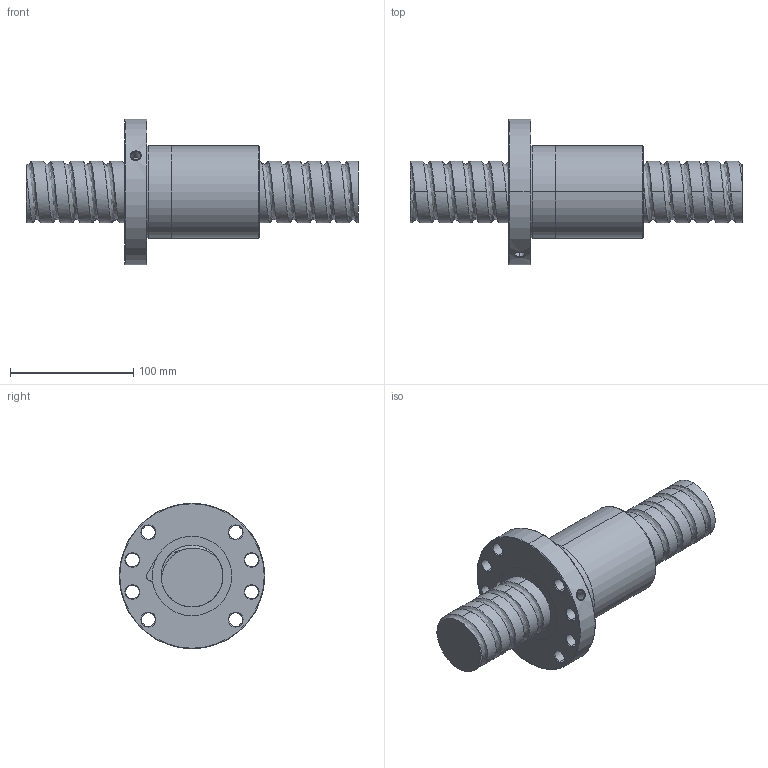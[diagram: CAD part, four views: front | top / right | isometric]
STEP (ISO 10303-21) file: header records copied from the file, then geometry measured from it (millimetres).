
FILE_DESCRIPTION (( 'STEP AP214' ), '1' );
FILE_NAME ('FSDC05016T5-F-A.STEP', '2010-06-25T12:16:23', ( 'XPAUTO' ), ( 'XPAUTO' ), 'SwSTEP 2.0', 'SolidWorks 2007', '' );
FILE_SCHEMA (( 'AUTOMOTIVE_DESIGN' ));
Length unit declared in the file: millimetre
Products named in the file (3): FSDC05016T5-F-A.sldasm-Part-1_預設; FSDC05016T5-F-A.sldasm-Part-2_預設; FSDC05016T5-F-A
Assembly tree (2 placements, depth 2):
  FSDC05016T5-F-A
    FSDC05016T5-F-A.sldasm-Part-2_預設
    FSDC05016T5-F-A.sldasm-Part-1_預設
Bounding box: 269 x 118 x 118 mm (x, y, z)
Volume: 865592.6 mm3; surface area: 118708.1 mm2
Topology: 2 solids, 2 shells, 136 faces, 338 edges, 211 vertices
Faces by surface type: cylinder 77, cone 32, plane 16, torus 6, bspline 5
Entity records: 26693 total; most frequent: CARTESIAN_POINT 23423, ORIENTED_EDGE 676, DIRECTION 652, EDGE_CURVE 338, AXIS2_PLACEMENT_3D 268, VERTEX_POINT 211, EDGE_LOOP 161, FACE_OUTER_BOUND 136
